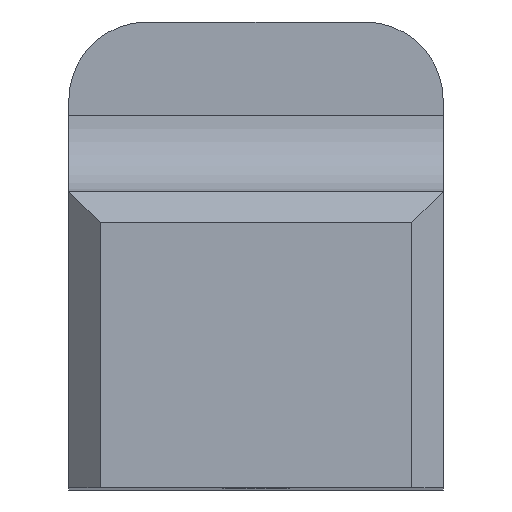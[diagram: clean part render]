
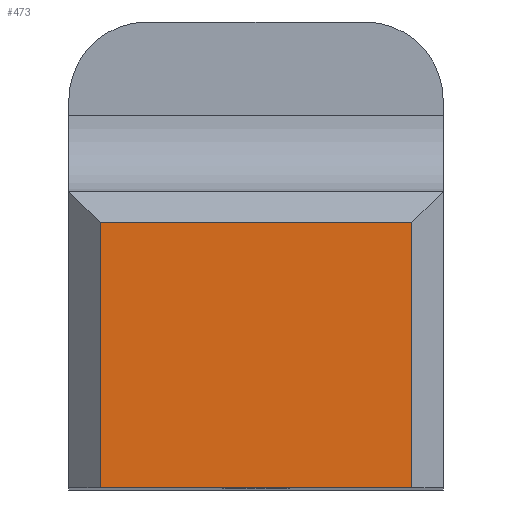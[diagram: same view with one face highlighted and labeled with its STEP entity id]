
A CAD part, top view. The second image highlights one B-rep face of the part: STEP entity #473.
In plain terms, the highlighted planar face has unit normal (0, 0, 1).
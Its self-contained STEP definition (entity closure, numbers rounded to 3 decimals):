
#88=PLANE('',#534);
#117=FACE_OUTER_BOUND('',#145,.T.);
#145=EDGE_LOOP('',(#446,#447,#448,#449));
#152=LINE('',#705,#192);
#154=LINE('',#709,#194);
#157=LINE('',#715,#197);
#185=LINE('',#790,#225);
#192=VECTOR('',#573,10.);
#194=VECTOR('',#577,10.);
#197=VECTOR('',#582,10.);
#225=VECTOR('',#658,10.);
#254=VERTEX_POINT('',#702);
#255=VERTEX_POINT('',#704);
#256=VERTEX_POINT('',#708);
#258=VERTEX_POINT('',#714);
#294=EDGE_CURVE('',#254,#255,#152,.T.);
#296=EDGE_CURVE('',#255,#256,#154,.T.);
#299=EDGE_CURVE('',#256,#258,#157,.T.);
#337=EDGE_CURVE('',#254,#258,#185,.T.);
#446=ORIENTED_EDGE('',*,*,#294,.F.);
#447=ORIENTED_EDGE('',*,*,#337,.T.);
#448=ORIENTED_EDGE('',*,*,#299,.F.);
#449=ORIENTED_EDGE('',*,*,#296,.F.);
#473=ADVANCED_FACE('',(#117),#88,.T.);
#534=AXIS2_PLACEMENT_3D('',#791,#659,#660);
#573=DIRECTION('',(0.,1.,0.));
#577=DIRECTION('',(1.,0.,0.));
#582=DIRECTION('',(0.,-1.,0.));
#658=DIRECTION('',(1.,0.,0.));
#659=DIRECTION('center_axis',(0.,0.,1.));
#660=DIRECTION('ref_axis',(1.,0.,0.));
#702=CARTESIAN_POINT('',(-10.,0.,40.));
#704=CARTESIAN_POINT('',(-10.,17.,40.));
#705=CARTESIAN_POINT('',(-10.,14.25,40.));
#708=CARTESIAN_POINT('',(10.,17.,40.));
#709=CARTESIAN_POINT('',(6.,17.,40.));
#714=CARTESIAN_POINT('',(10.,0.,40.));
#715=CARTESIAN_POINT('',(10.,4.75,40.));
#790=CARTESIAN_POINT('',(-12.,0.,40.));
#791=CARTESIAN_POINT('Origin',(0.,9.5,40.));
